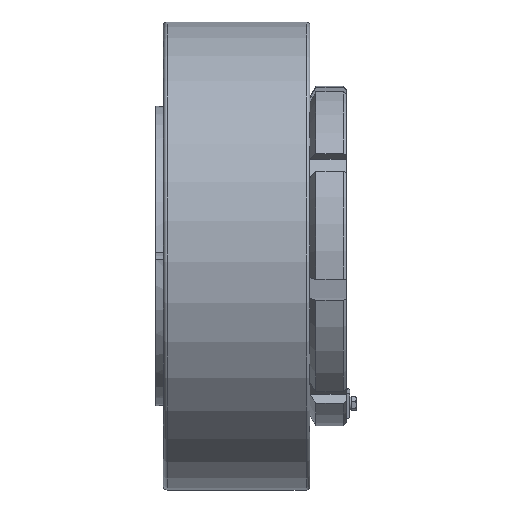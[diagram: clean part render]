
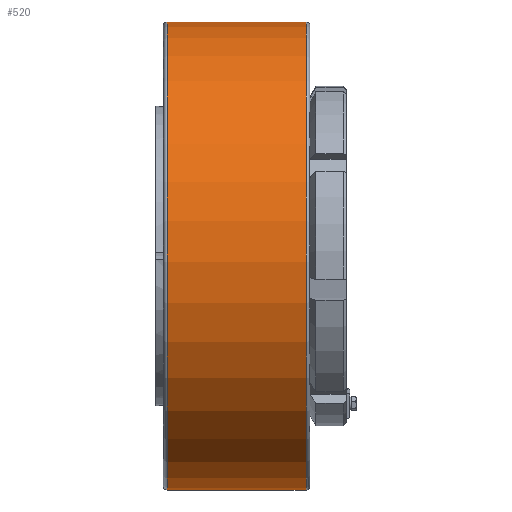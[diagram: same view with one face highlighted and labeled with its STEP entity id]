
A CAD part, front view. The second image highlights one B-rep face of the part: STEP entity #520.
In plain terms, the highlighted cylindrical face has radius 310 mm (diameter 620 mm), a full revolution.
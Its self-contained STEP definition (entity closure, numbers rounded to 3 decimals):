
#520 = ADVANCED_FACE( '', ( #1169, #1170 ), #1171, .T. );
#1169 = FACE_OUTER_BOUND( '', #1942, .T. );
#1170 = FACE_OUTER_BOUND( '', #1943, .T. );
#1171 = CYLINDRICAL_SURFACE( '', #1944, 310. );
#1942 = EDGE_LOOP( '', ( #4076 ) );
#1943 = EDGE_LOOP( '', ( #4077 ) );
#1944 = AXIS2_PLACEMENT_3D( '', #4078, #4079, #4080 );
#4076 = ORIENTED_EDGE( '', *, *, #5532, .T. );
#4077 = ORIENTED_EDGE( '', *, *, #5546, .F. );
#4078 = CARTESIAN_POINT( '', ( 0., 0., 0. ) );
#4079 = DIRECTION( '', ( -1., 0., 0. ) );
#4080 = DIRECTION( '', ( 0., 0., -1. ) );
#5532 = EDGE_CURVE( '', #6788, #6788, #6789, .T. );
#5546 = EDGE_CURVE( '', #6816, #6816, #6817, .T. );
#6788 = VERTEX_POINT( '', #8837 );
#6789 = CIRCLE( '', #8838, 310. );
#6816 = VERTEX_POINT( '', #8865 );
#6817 = CIRCLE( '', #8866, 310. );
#8837 = CARTESIAN_POINT( '', ( -247., 0., -310. ) );
#8838 = AXIS2_PLACEMENT_3D( '', #10400, #10401, #10402 );
#8865 = CARTESIAN_POINT( '', ( -63., 0., -310. ) );
#8866 = AXIS2_PLACEMENT_3D( '', #10442, #10443, #10444 );
#10400 = CARTESIAN_POINT( '', ( -247., 0., 0. ) );
#10401 = DIRECTION( '', ( 1., 0., 0. ) );
#10402 = DIRECTION( '', ( 0., 0., -1. ) );
#10442 = CARTESIAN_POINT( '', ( -63., 0., 0. ) );
#10443 = DIRECTION( '', ( 1., 0., 0. ) );
#10444 = DIRECTION( '', ( 0., 0., -1. ) );
